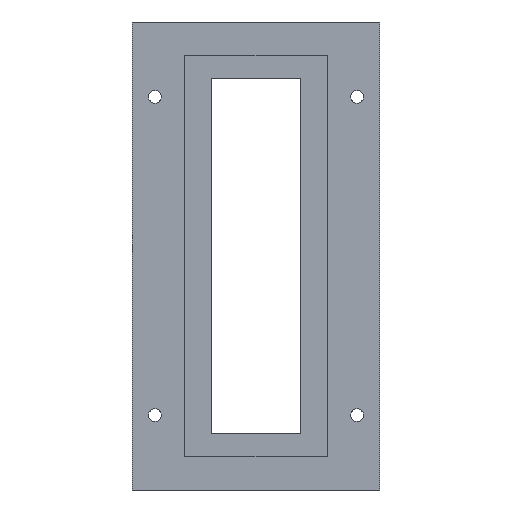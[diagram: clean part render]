
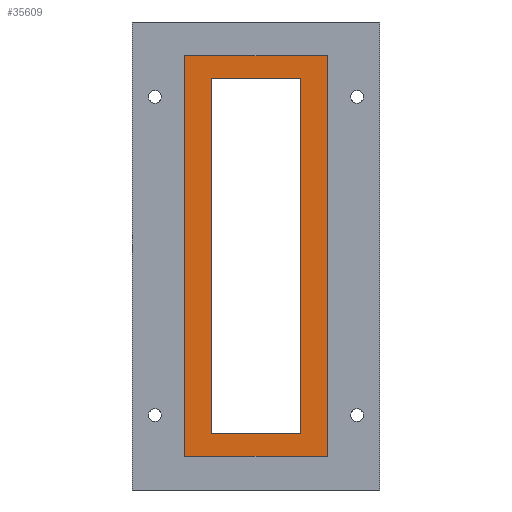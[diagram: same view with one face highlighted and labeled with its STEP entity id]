
A CAD part, front view. The second image highlights one B-rep face of the part: STEP entity #35609.
In plain terms, the highlighted planar face has unit normal (0, -1, 0).
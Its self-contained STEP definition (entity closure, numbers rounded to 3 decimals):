
#269 = PLANE('',#270);
#270 = AXIS2_PLACEMENT_3D('',#271,#272,#273);
#271 = CARTESIAN_POINT('',(-19.,64.5,141.));
#272 = DIRECTION('',(0.,0.,1.));
#273 = DIRECTION('',(1.,0.,0.));
#297 = PLANE('',#298);
#298 = AXIS2_PLACEMENT_3D('',#299,#300,#301);
#299 = CARTESIAN_POINT('',(-19.,64.5,34.));
#300 = DIRECTION('',(1.,0.,0.));
#301 = DIRECTION('',(0.,0.,1.));
#325 = PLANE('',#326);
#326 = AXIS2_PLACEMENT_3D('',#327,#328,#329);
#327 = CARTESIAN_POINT('',(-19.,64.5,34.));
#328 = DIRECTION('',(0.,0.,1.));
#329 = DIRECTION('',(1.,0.,0.));
#351 = PLANE('',#352);
#352 = AXIS2_PLACEMENT_3D('',#353,#354,#355);
#353 = CARTESIAN_POINT('',(19.,64.5,34.));
#354 = DIRECTION('',(1.,0.,0.));
#355 = DIRECTION('',(0.,0.,1.));
#5229 = PLANE('',#5230);
#5230 = AXIS2_PLACEMENT_3D('',#5231,#5232,#5233);
#5231 = CARTESIAN_POINT('',(-12.,61.55,135.));
#5232 = DIRECTION('',(0.,0.,1.));
#5233 = DIRECTION('',(1.,0.,0.));
#5255 = PLANE('',#5256);
#5256 = AXIS2_PLACEMENT_3D('',#5257,#5258,#5259);
#5257 = CARTESIAN_POINT('',(-12.,61.55,40.));
#5258 = DIRECTION('',(1.,0.,0.));
#5259 = DIRECTION('',(0.,0.,1.));
#5281 = PLANE('',#5282);
#5282 = AXIS2_PLACEMENT_3D('',#5283,#5284,#5285);
#5283 = CARTESIAN_POINT('',(-12.,61.55,40.));
#5284 = DIRECTION('',(0.,0.,1.));
#5285 = DIRECTION('',(1.,0.,0.));
#5305 = PLANE('',#5306);
#5306 = AXIS2_PLACEMENT_3D('',#5307,#5308,#5309);
#5307 = CARTESIAN_POINT('',(12.,61.55,40.));
#5308 = DIRECTION('',(1.,0.,0.));
#5309 = DIRECTION('',(0.,0.,1.));
#15879 = VERTEX_POINT('',#15880);
#15880 = CARTESIAN_POINT('',(-19.,64.5,141.));
#15901 = EDGE_CURVE('',#15879,#15902,#15904,.T.);
#15902 = VERTEX_POINT('',#15903);
#15903 = CARTESIAN_POINT('',(19.,64.5,141.));
#15904 = SURFACE_CURVE('',#15905,(#15909,#15916),.PCURVE_S1.);
#15905 = LINE('',#15906,#15907);
#15906 = CARTESIAN_POINT('',(-19.,64.5,141.));
#15907 = VECTOR('',#15908,1.);
#15908 = DIRECTION('',(1.,0.,0.));
#15909 = PCURVE('',#269,#15910);
#15910 = DEFINITIONAL_REPRESENTATION('',(#15911),#15915);
#15911 = LINE('',#15912,#15913);
#15912 = CARTESIAN_POINT('',(0.,0.));
#15913 = VECTOR('',#15914,1.);
#15914 = DIRECTION('',(1.,0.));
#15915 = ( GEOMETRIC_REPRESENTATION_CONTEXT(2) 
PARAMETRIC_REPRESENTATION_CONTEXT() REPRESENTATION_CONTEXT('2D SPACE',''
  ) );
#15916 = PCURVE('',#15917,#15922);
#15917 = PLANE('',#15918);
#15918 = AXIS2_PLACEMENT_3D('',#15919,#15920,#15921);
#15919 = CARTESIAN_POINT('',(-19.,64.5,34.));
#15920 = DIRECTION('',(0.,1.,0.));
#15921 = DIRECTION('',(0.,0.,1.));
#15922 = DEFINITIONAL_REPRESENTATION('',(#15923),#15927);
#15923 = LINE('',#15924,#15925);
#15924 = CARTESIAN_POINT('',(107.,0.));
#15925 = VECTOR('',#15926,1.);
#15926 = DIRECTION('',(0.,1.));
#15927 = ( GEOMETRIC_REPRESENTATION_CONTEXT(2) 
PARAMETRIC_REPRESENTATION_CONTEXT() REPRESENTATION_CONTEXT('2D SPACE',''
  ) );
#15954 = EDGE_CURVE('',#15955,#15902,#15957,.T.);
#15955 = VERTEX_POINT('',#15956);
#15956 = CARTESIAN_POINT('',(19.,64.5,34.));
#15957 = SURFACE_CURVE('',#15958,(#15962,#15969),.PCURVE_S1.);
#15958 = LINE('',#15959,#15960);
#15959 = CARTESIAN_POINT('',(19.,64.5,34.));
#15960 = VECTOR('',#15961,1.);
#15961 = DIRECTION('',(0.,0.,1.));
#15962 = PCURVE('',#351,#15963);
#15963 = DEFINITIONAL_REPRESENTATION('',(#15964),#15968);
#15964 = LINE('',#15965,#15966);
#15965 = CARTESIAN_POINT('',(0.,0.));
#15966 = VECTOR('',#15967,1.);
#15967 = DIRECTION('',(1.,0.));
#15968 = ( GEOMETRIC_REPRESENTATION_CONTEXT(2) 
PARAMETRIC_REPRESENTATION_CONTEXT() REPRESENTATION_CONTEXT('2D SPACE',''
  ) );
#15969 = PCURVE('',#15917,#15970);
#15970 = DEFINITIONAL_REPRESENTATION('',(#15971),#15975);
#15971 = LINE('',#15972,#15973);
#15972 = CARTESIAN_POINT('',(0.,38.));
#15973 = VECTOR('',#15974,1.);
#15974 = DIRECTION('',(1.,0.));
#15975 = ( GEOMETRIC_REPRESENTATION_CONTEXT(2) 
PARAMETRIC_REPRESENTATION_CONTEXT() REPRESENTATION_CONTEXT('2D SPACE',''
  ) );
#16003 = EDGE_CURVE('',#16004,#15879,#16006,.T.);
#16004 = VERTEX_POINT('',#16005);
#16005 = CARTESIAN_POINT('',(-19.,64.5,34.));
#16006 = SURFACE_CURVE('',#16007,(#16011,#16018),.PCURVE_S1.);
#16007 = LINE('',#16008,#16009);
#16008 = CARTESIAN_POINT('',(-19.,64.5,34.));
#16009 = VECTOR('',#16010,1.);
#16010 = DIRECTION('',(0.,0.,1.));
#16011 = PCURVE('',#297,#16012);
#16012 = DEFINITIONAL_REPRESENTATION('',(#16013),#16017);
#16013 = LINE('',#16014,#16015);
#16014 = CARTESIAN_POINT('',(0.,0.));
#16015 = VECTOR('',#16016,1.);
#16016 = DIRECTION('',(1.,0.));
#16017 = ( GEOMETRIC_REPRESENTATION_CONTEXT(2) 
PARAMETRIC_REPRESENTATION_CONTEXT() REPRESENTATION_CONTEXT('2D SPACE',''
  ) );
#16018 = PCURVE('',#15917,#16019);
#16019 = DEFINITIONAL_REPRESENTATION('',(#16020),#16024);
#16020 = LINE('',#16021,#16022);
#16021 = CARTESIAN_POINT('',(0.,0.));
#16022 = VECTOR('',#16023,1.);
#16023 = DIRECTION('',(1.,0.));
#16024 = ( GEOMETRIC_REPRESENTATION_CONTEXT(2) 
PARAMETRIC_REPRESENTATION_CONTEXT() REPRESENTATION_CONTEXT('2D SPACE',''
  ) );
#16053 = EDGE_CURVE('',#16004,#15955,#16054,.T.);
#16054 = SURFACE_CURVE('',#16055,(#16059,#16066),.PCURVE_S1.);
#16055 = LINE('',#16056,#16057);
#16056 = CARTESIAN_POINT('',(-19.,64.5,34.));
#16057 = VECTOR('',#16058,1.);
#16058 = DIRECTION('',(1.,0.,0.));
#16059 = PCURVE('',#325,#16060);
#16060 = DEFINITIONAL_REPRESENTATION('',(#16061),#16065);
#16061 = LINE('',#16062,#16063);
#16062 = CARTESIAN_POINT('',(0.,0.));
#16063 = VECTOR('',#16064,1.);
#16064 = DIRECTION('',(1.,0.));
#16065 = ( GEOMETRIC_REPRESENTATION_CONTEXT(2) 
PARAMETRIC_REPRESENTATION_CONTEXT() REPRESENTATION_CONTEXT('2D SPACE',''
  ) );
#16066 = PCURVE('',#15917,#16067);
#16067 = DEFINITIONAL_REPRESENTATION('',(#16068),#16072);
#16068 = LINE('',#16069,#16070);
#16069 = CARTESIAN_POINT('',(0.,0.));
#16070 = VECTOR('',#16071,1.);
#16071 = DIRECTION('',(0.,1.));
#16072 = ( GEOMETRIC_REPRESENTATION_CONTEXT(2) 
PARAMETRIC_REPRESENTATION_CONTEXT() REPRESENTATION_CONTEXT('2D SPACE',''
  ) );
#22895 = VERTEX_POINT('',#22896);
#22896 = CARTESIAN_POINT('',(-12.,64.5,135.));
#22917 = EDGE_CURVE('',#22895,#22918,#22920,.T.);
#22918 = VERTEX_POINT('',#22919);
#22919 = CARTESIAN_POINT('',(12.,64.5,135.));
#22920 = SURFACE_CURVE('',#22921,(#22925,#22931),.PCURVE_S1.);
#22921 = LINE('',#22922,#22923);
#22922 = CARTESIAN_POINT('',(-15.5,64.5,135.));
#22923 = VECTOR('',#22924,1.);
#22924 = DIRECTION('',(1.,0.,0.));
#22925 = PCURVE('',#5229,#22926);
#22926 = DEFINITIONAL_REPRESENTATION('',(#22927),#22930);
#22927 = B_SPLINE_CURVE_WITH_KNOTS('',1,(#22928,#22929),.UNSPECIFIED.,
  .F.,.F.,(2,2),(3.5,27.5),.PIECEWISE_BEZIER_KNOTS.);
#22928 = CARTESIAN_POINT('',(0.,2.95));
#22929 = CARTESIAN_POINT('',(24.,2.95));
#22930 = ( GEOMETRIC_REPRESENTATION_CONTEXT(2) 
PARAMETRIC_REPRESENTATION_CONTEXT() REPRESENTATION_CONTEXT('2D SPACE',''
  ) );
#22931 = PCURVE('',#15917,#22932);
#22932 = DEFINITIONAL_REPRESENTATION('',(#22933),#22936);
#22933 = B_SPLINE_CURVE_WITH_KNOTS('',1,(#22934,#22935),.UNSPECIFIED.,
  .F.,.F.,(2,2),(3.5,27.5),.PIECEWISE_BEZIER_KNOTS.);
#22934 = CARTESIAN_POINT('',(101.,7.));
#22935 = CARTESIAN_POINT('',(101.,31.));
#22936 = ( GEOMETRIC_REPRESENTATION_CONTEXT(2) 
PARAMETRIC_REPRESENTATION_CONTEXT() REPRESENTATION_CONTEXT('2D SPACE',''
  ) );
#22964 = EDGE_CURVE('',#22895,#22965,#22967,.T.);
#22965 = VERTEX_POINT('',#22966);
#22966 = CARTESIAN_POINT('',(-12.,64.5,40.));
#22967 = SURFACE_CURVE('',#22968,(#22972,#22978),.PCURVE_S1.);
#22968 = LINE('',#22969,#22970);
#22969 = CARTESIAN_POINT('',(-12.,64.5,37.));
#22970 = VECTOR('',#22971,1.);
#22971 = DIRECTION('',(0.,0.,-1.));
#22972 = PCURVE('',#5255,#22973);
#22973 = DEFINITIONAL_REPRESENTATION('',(#22974),#22977);
#22974 = B_SPLINE_CURVE_WITH_KNOTS('',1,(#22975,#22976),.UNSPECIFIED.,
  .F.,.F.,(2,2),(-98.,-3.),.PIECEWISE_BEZIER_KNOTS.);
#22975 = CARTESIAN_POINT('',(95.,-2.95));
#22976 = CARTESIAN_POINT('',(0.,-2.95));
#22977 = ( GEOMETRIC_REPRESENTATION_CONTEXT(2) 
PARAMETRIC_REPRESENTATION_CONTEXT() REPRESENTATION_CONTEXT('2D SPACE',''
  ) );
#22978 = PCURVE('',#15917,#22979);
#22979 = DEFINITIONAL_REPRESENTATION('',(#22980),#22983);
#22980 = B_SPLINE_CURVE_WITH_KNOTS('',1,(#22981,#22982),.UNSPECIFIED.,
  .F.,.F.,(2,2),(-98.,-3.),.PIECEWISE_BEZIER_KNOTS.);
#22981 = CARTESIAN_POINT('',(101.,7.));
#22982 = CARTESIAN_POINT('',(6.,7.));
#22983 = ( GEOMETRIC_REPRESENTATION_CONTEXT(2) 
PARAMETRIC_REPRESENTATION_CONTEXT() REPRESENTATION_CONTEXT('2D SPACE',''
  ) );
#23011 = EDGE_CURVE('',#22918,#23012,#23014,.T.);
#23012 = VERTEX_POINT('',#23013);
#23013 = CARTESIAN_POINT('',(12.,64.5,40.));
#23014 = SURFACE_CURVE('',#23015,(#23019,#23025),.PCURVE_S1.);
#23015 = LINE('',#23016,#23017);
#23016 = CARTESIAN_POINT('',(12.,64.5,37.));
#23017 = VECTOR('',#23018,1.);
#23018 = DIRECTION('',(0.,0.,-1.));
#23019 = PCURVE('',#5305,#23020);
#23020 = DEFINITIONAL_REPRESENTATION('',(#23021),#23024);
#23021 = B_SPLINE_CURVE_WITH_KNOTS('',1,(#23022,#23023),.UNSPECIFIED.,
  .F.,.F.,(2,2),(-98.,-3.),.PIECEWISE_BEZIER_KNOTS.);
#23022 = CARTESIAN_POINT('',(95.,-2.95));
#23023 = CARTESIAN_POINT('',(0.,-2.95));
#23024 = ( GEOMETRIC_REPRESENTATION_CONTEXT(2) 
PARAMETRIC_REPRESENTATION_CONTEXT() REPRESENTATION_CONTEXT('2D SPACE',''
  ) );
#23025 = PCURVE('',#15917,#23026);
#23026 = DEFINITIONAL_REPRESENTATION('',(#23027),#23030);
#23027 = B_SPLINE_CURVE_WITH_KNOTS('',1,(#23028,#23029),.UNSPECIFIED.,
  .F.,.F.,(2,2),(-98.,-3.),.PIECEWISE_BEZIER_KNOTS.);
#23028 = CARTESIAN_POINT('',(101.,31.));
#23029 = CARTESIAN_POINT('',(6.,31.));
#23030 = ( GEOMETRIC_REPRESENTATION_CONTEXT(2) 
PARAMETRIC_REPRESENTATION_CONTEXT() REPRESENTATION_CONTEXT('2D SPACE',''
  ) );
#23058 = EDGE_CURVE('',#22965,#23012,#23059,.T.);
#23059 = SURFACE_CURVE('',#23060,(#23064,#23070),.PCURVE_S1.);
#23060 = LINE('',#23061,#23062);
#23061 = CARTESIAN_POINT('',(-15.5,64.5,40.));
#23062 = VECTOR('',#23063,1.);
#23063 = DIRECTION('',(1.,0.,0.));
#23064 = PCURVE('',#5281,#23065);
#23065 = DEFINITIONAL_REPRESENTATION('',(#23066),#23069);
#23066 = B_SPLINE_CURVE_WITH_KNOTS('',1,(#23067,#23068),.UNSPECIFIED.,
  .F.,.F.,(2,2),(3.5,27.5),.PIECEWISE_BEZIER_KNOTS.);
#23067 = CARTESIAN_POINT('',(0.,2.95));
#23068 = CARTESIAN_POINT('',(24.,2.95));
#23069 = ( GEOMETRIC_REPRESENTATION_CONTEXT(2) 
PARAMETRIC_REPRESENTATION_CONTEXT() REPRESENTATION_CONTEXT('2D SPACE',''
  ) );
#23070 = PCURVE('',#15917,#23071);
#23071 = DEFINITIONAL_REPRESENTATION('',(#23072),#23075);
#23072 = B_SPLINE_CURVE_WITH_KNOTS('',1,(#23073,#23074),.UNSPECIFIED.,
  .F.,.F.,(2,2),(3.5,27.5),.PIECEWISE_BEZIER_KNOTS.);
#23073 = CARTESIAN_POINT('',(6.,7.));
#23074 = CARTESIAN_POINT('',(6.,31.));
#23075 = ( GEOMETRIC_REPRESENTATION_CONTEXT(2) 
PARAMETRIC_REPRESENTATION_CONTEXT() REPRESENTATION_CONTEXT('2D SPACE',''
  ) );
#35609 = ADVANCED_FACE('',(#35610,#35616),#15917,.F.);
#35610 = FACE_BOUND('',#35611,.F.);
#35611 = EDGE_LOOP('',(#35612,#35613,#35614,#35615));
#35612 = ORIENTED_EDGE('',*,*,#16053,.F.);
#35613 = ORIENTED_EDGE('',*,*,#16003,.T.);
#35614 = ORIENTED_EDGE('',*,*,#15901,.T.);
#35615 = ORIENTED_EDGE('',*,*,#15954,.F.);
#35616 = FACE_BOUND('',#35617,.F.);
#35617 = EDGE_LOOP('',(#35618,#35619,#35620,#35621));
#35618 = ORIENTED_EDGE('',*,*,#22917,.F.);
#35619 = ORIENTED_EDGE('',*,*,#22964,.T.);
#35620 = ORIENTED_EDGE('',*,*,#23058,.T.);
#35621 = ORIENTED_EDGE('',*,*,#23011,.F.);
